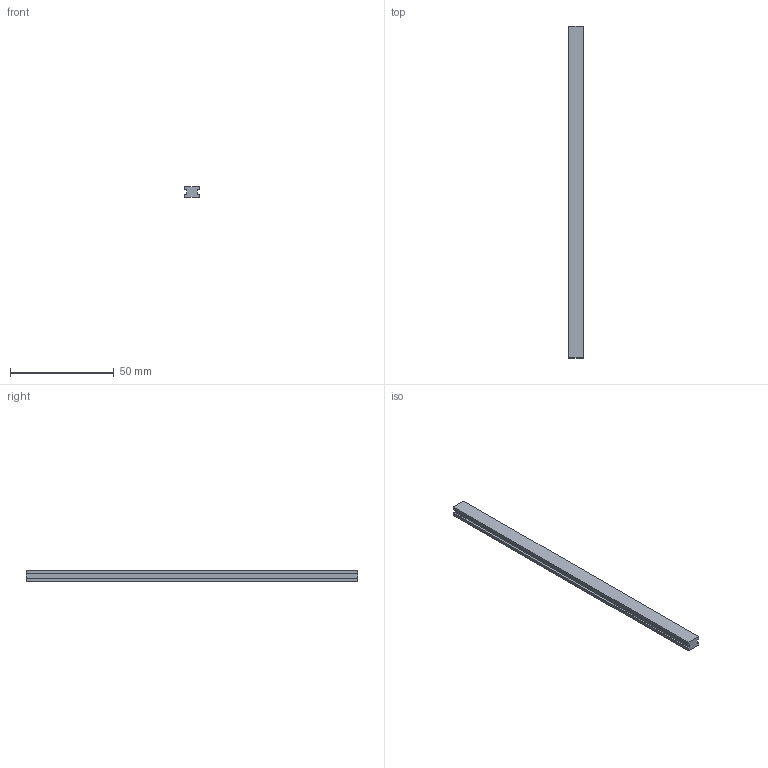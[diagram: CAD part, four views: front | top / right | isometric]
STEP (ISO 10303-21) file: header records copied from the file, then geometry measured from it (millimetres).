
FILE_DESCRIPTION(('Open CASCADE Model'),'2;1');
FILE_NAME('metal-linear-track.step','2026-11-14T14:31:49',('Author'),( 'Open CASCADE'),'Open CASCADE STEP processor 8.0','Open CASCADE 8.0' ,'Unknown');
FILE_SCHEMA(('AP242_MANAGED_MODEL_BASED_3D_ENGINEERING_MIM_LF {1 0 10303 442 1 1 4 }' ));
Length unit declared in the file: millimetre
Products named in the file (1): Metal Linear Track
Bounding box: 7 x 160 x 5 mm (x, y, z)
Volume: 4960 mm3; surface area: 4542 mm2
Topology: 1 solids, 1 shells, 14 faces, 36 edges, 24 vertices
Faces by surface type: plane 14
Entity records: 898 total; most frequent: CARTESIAN_POINT 147, DIRECTION 138, LINE 108, VECTOR 108, ORIENTED_EDGE 72, PCURVE 72, DEFINITIONAL_REPRESENTATION 72, EDGE_CURVE 36
